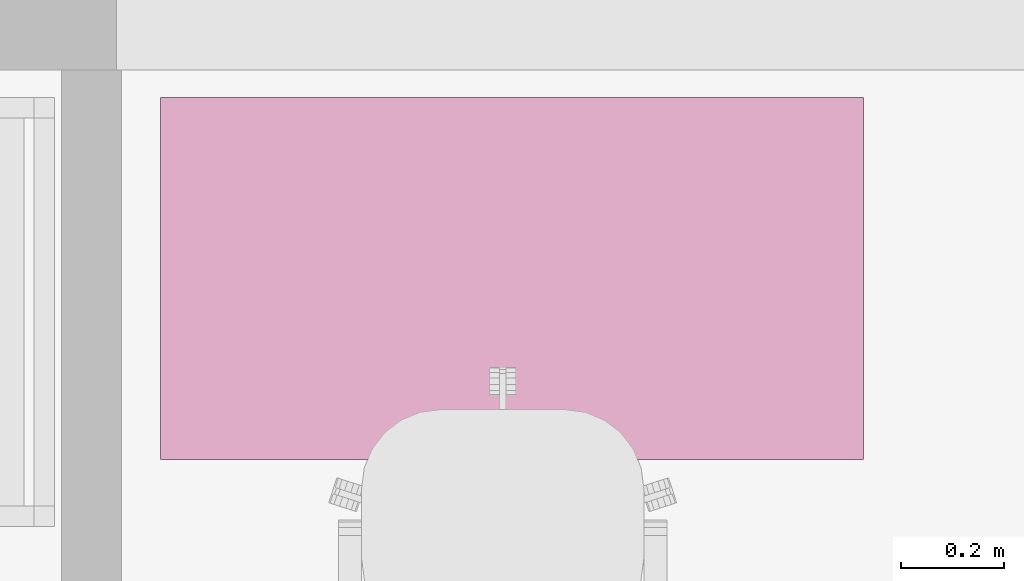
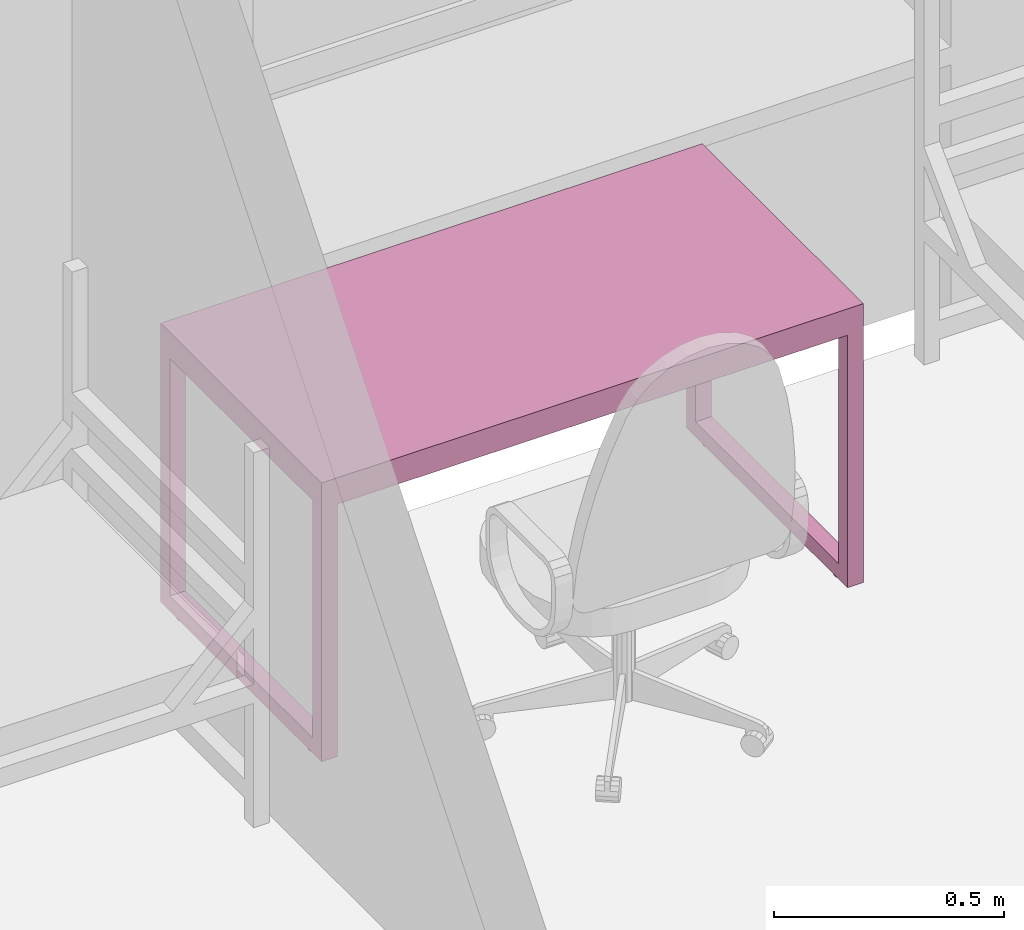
# One storey, part 47 of 48: 1 furnishing.
"""IFC2X3 building model written with IfcOpenShell, lengths in millimetres."""

from ifc_helpers import new_model, entity, si_unit, converted_unit, derived_unit, direction, frame, origin, place, context, subcontext, project, spatial, faceted_brep, source, transform, mapped, material, material_list, type_object, type_shapes, element, save


model = new_model("IFC2X3")

# Units and contexts
model_context = context("Model", 3, precision=0.01, world=origin(), true_north=direction((6.12303176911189e-17, 1.0)))
body_context = subcontext(model_context, "Body", "Model", "MODEL_VIEW")
ifc_project = project(units=[si_unit("LENGTHUNIT", "METRE", prefix="MILLI"), si_unit("AREAUNIT", "SQUARE_METRE"), si_unit("VOLUMEUNIT", "CUBIC_METRE"), converted_unit("PLANEANGLEUNIT", "DEGREE", entity("IfcRatioMeasure", 0.0174532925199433), si_unit("PLANEANGLEUNIT", "RADIAN"), dimensions=[0, 0, 0, 0, 0, 0, 0]), si_unit("MASSUNIT", "GRAM", prefix="KILO"), derived_unit("MASSDENSITYUNIT", [(si_unit("MASSUNIT", "GRAM", prefix="KILO"), 1), (si_unit("LENGTHUNIT", "METRE"), -3)]), si_unit("TIMEUNIT", "SECOND"), si_unit("FREQUENCYUNIT", "HERTZ"), si_unit("THERMODYNAMICTEMPERATUREUNIT", "DEGREE_CELSIUS"), derived_unit("THERMALTRANSMITTANCEUNIT", [(si_unit("MASSUNIT", "GRAM", prefix="KILO"), 1), (si_unit("THERMODYNAMICTEMPERATUREUNIT", "KELVIN"), -1), (si_unit("TIMEUNIT", "SECOND"), -3)]), derived_unit("VOLUMETRICFLOWRATEUNIT", [(si_unit("LENGTHUNIT", "METRE"), 3), (si_unit("TIMEUNIT", "SECOND"), -1)]), si_unit("ELECTRICCURRENTUNIT", "AMPERE"), si_unit("ELECTRICVOLTAGEUNIT", "VOLT"), si_unit("POWERUNIT", "WATT"), si_unit("FORCEUNIT", "NEWTON", prefix="KILO"), si_unit("ILLUMINANCEUNIT", "LUX"), si_unit("LUMINOUSFLUXUNIT", "LUMEN"), si_unit("LUMINOUSINTENSITYUNIT", "CANDELA"), derived_unit("USERDEFINED", [(si_unit("MASSUNIT", "GRAM", prefix="KILO"), -1), (si_unit("LENGTHUNIT", "METRE"), -2), (si_unit("TIMEUNIT", "SECOND"), 3), (si_unit("LUMINOUSFLUXUNIT", "LUMEN"), 1)]), derived_unit("LINEARVELOCITYUNIT", [(si_unit("LENGTHUNIT", "METRE"), 1), (si_unit("TIMEUNIT", "SECOND"), -1)]), si_unit("PRESSUREUNIT", "PASCAL"), derived_unit("USERDEFINED", [(si_unit("LENGTHUNIT", "METRE"), -2), (si_unit("MASSUNIT", "GRAM", prefix="KILO"), 1), (si_unit("TIMEUNIT", "SECOND"), -2)]), derived_unit("LINEARFORCEUNIT", [(si_unit("MASSUNIT", "GRAM", prefix="KILO"), 1), (si_unit("LENGTHUNIT", "METRE"), 1), (si_unit("TIMEUNIT", "SECOND"), -2), (si_unit("LENGTHUNIT", "METRE"), -1)]), derived_unit("PLANARFORCEUNIT", [(si_unit("MASSUNIT", "GRAM", prefix="KILO"), 1), (si_unit("LENGTHUNIT", "METRE"), 1), (si_unit("TIMEUNIT", "SECOND"), -2), (si_unit("LENGTHUNIT", "METRE"), -2)])], contexts=[model_context])

# Site, building, storey, space
site_placement = place(None, origin())
site = spatial("IfcSite", under=ifc_project, at=site_placement, Name="Default", CompositionType="ELEMENT")
building_placement = place(site_placement, origin())
building = spatial("IfcBuilding", under=site, at=building_placement, Name="SMA ARH", CompositionType="ELEMENT")
storey_placement = place(building_placement, frame((0.0, 0.0, 3300.0)))
storey = spatial("IfcBuildingStorey", under=building, at=storey_placement, Name="2 Korrus", CompositionType="ELEMENT", Elevation=3299.99999999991)
space_placement = place(storey_placement, origin())
space = spatial("IfcSpace", under=storey, at=space_placement, Name="2-31", CompositionType="ELEMENT", InteriorOrExteriorSpace="INTERNAL")

# Furnishing
ifc_material = material(Name="<Unnamed>")
ifc_material_list = material_list([ifc_material, ifc_material])
furniture_type = type_object("IfcFurnitureType", Name="kirjutuslaud 1360x700mm:kirjutuslaud 1360x700mm", material=ifc_material_list)
shared_shape = source(origin(), body_context, "Body", "Brep", [
    faceted_brep([(680.0, 350.0, 720.0), (680.0, 350.0, 750.0), (680.0, -350.0, 750.0), (680.0, -350.0, 720.0), (-680.0, 350.0, 720.0), (-680.0, -350.0, 720.0), (-680.0, -350.0, 750.0), (-680.0, 350.0, 750.0)], [[[0, 1, 2, 3]], [[4, 5, 6, 7]], [[3, 5, 4, 0]], [[2, 6, 5, 3]], [[1, 7, 6, 2]], [[0, 4, 7, 1]]]),
    faceted_brep([(-640.0, 310.0, 680.0), (-640.0, 310.0, 720.0), (-640.0, -310.0, 720.0), (-640.0, -310.0, 680.0), (-680.0, 350.0, 720.0), (-680.0, 350.0, 10.0), (-680.0, -350.0, 10.0), (-680.0, -350.0, 720.0), (-680.0, -310.0, 680.0), (-680.0, -310.0, 50.0), (-680.0, 310.0, 50.0), (-680.0, 310.0, 680.0), (680.0, 350.0, 720.0), (680.0, 350.0, 10.0), (640.0, 350.0, 10.0), (640.0, 350.0, 680.0), (-640.0, 350.0, 680.0), (-640.0, 350.0, 10.0), (-640.0, -350.0, 10.0), (-640.0, -350.0, 680.0), (640.0, -350.0, 680.0), (640.0, -350.0, 10.0), (680.0, -350.0, 10.0), (680.0, -350.0, 720.0), (640.0, 310.0, 720.0), (640.0, -310.0, 720.0), (-640.0, -310.0, 50.0), (-640.0, 310.0, 50.0), (640.0, -310.0, 680.0), (640.0, 310.0, 680.0), (680.0, -310.0, 680.0), (680.0, 310.0, 680.0), (680.0, 310.0, 50.0), (680.0, -310.0, 50.0), (640.0, -310.0, 50.0), (640.0, 310.0, 50.0)], [[[0, 1, 2, 3]], [[4, 5, 6, 7], [8, 9, 10, 11]], [[4, 12, 13, 14, 15, 16, 17, 5]], [[18, 6, 5, 17]], [[6, 18, 19, 20, 21, 22, 23, 7]], [[2, 1, 24, 25], [23, 12, 4, 7]], [[26, 9, 8, 3]], [[27, 10, 9, 26]], [[0, 11, 10, 27]], [[3, 8, 11, 0]], [[28, 20, 19, 3]], [[25, 28, 3, 2]], [[1, 0, 29, 24]], [[12, 23, 22, 13], [30, 31, 32, 33]], [[21, 20, 28, 34, 35, 29, 15, 14]], [[22, 21, 14, 13]], [[33, 34, 28, 30]], [[32, 35, 34, 33]], [[31, 29, 35, 32]], [[30, 28, 29, 31]], [[28, 25, 24, 29]], [[15, 29, 0, 16]], [[17, 16, 0, 27, 26, 3, 19, 18]]], outer=[[True], [True, False], [True], [True], [True], [False, True], [True], [True], [True], [True], [True], [True], [True], [True, False], [True], [True], [True], [True], [True], [True], [True], [True], [True]]),
    faceted_brep([(-655.964885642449, 270.466136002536, 0.0), (-659.847171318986, 269.955023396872, 0.0), (-663.729456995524, 270.466136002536, 0.0), (-667.347171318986, 271.964642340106, 0.0), (-670.453773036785, 274.348421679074, 0.0), (-672.837552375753, 277.455023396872, 0.0), (-674.336058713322, 281.072737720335, 0.0), (-674.847171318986, 284.955023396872, 0.0), (-674.336058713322, 288.83730907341, 0.0), (-672.837552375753, 292.455023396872, 0.0), (-670.453773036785, 295.561625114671, 0.0), (-667.347171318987, 297.945404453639, 0.0), (-663.729456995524, 299.443910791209, 0.0), (-659.847171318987, 299.955023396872, 0.0), (-655.964885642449, 299.443910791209, 0.0), (-652.347171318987, 297.945404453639, 0.0), (-649.240569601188, 295.561625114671, 0.0), (-646.85679026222, 292.455023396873, 0.0), (-645.35828392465, 288.83730907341, 0.0), (-644.847171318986, 284.955023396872, 0.0), (-645.35828392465, 281.072737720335, 0.0), (-646.85679026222, 277.455023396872, 0.0), (-649.240569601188, 274.348421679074, 0.0), (-652.347171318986, 271.964642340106, 0.0), (-649.240569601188, 295.561625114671, 10.0), (-652.347171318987, 297.945404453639, 10.0), (-655.964885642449, 299.443910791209, 10.0), (-659.847171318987, 299.955023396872, 10.0), (-663.729456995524, 299.443910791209, 10.0), (-667.347171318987, 297.945404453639, 10.0), (-670.453773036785, 295.561625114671, 10.0), (-672.837552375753, 292.455023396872, 10.0), (-674.336058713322, 288.83730907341, 10.0), (-674.847171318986, 284.955023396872, 10.0), (-674.336058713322, 281.072737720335, 10.0), (-672.837552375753, 277.455023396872, 10.0), (-670.453773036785, 274.348421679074, 10.0), (-667.347171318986, 271.964642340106, 10.0), (-663.729456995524, 270.466136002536, 10.0), (-659.847171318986, 269.955023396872, 10.0), (-655.964885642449, 270.466136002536, 10.0), (-652.347171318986, 271.964642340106, 10.0), (-649.240569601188, 274.348421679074, 10.0), (-646.85679026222, 277.455023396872, 10.0), (-645.35828392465, 281.072737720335, 10.0), (-644.847171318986, 284.955023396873, 10.0), (-645.35828392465, 288.83730907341, 10.0), (-646.85679026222, 292.455023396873, 10.0)], [[[0, 1, 2, 3, 4, 5, 6, 7, 8, 9, 10, 11, 12, 13, 14, 15, 16, 17, 18, 19, 20, 21, 22, 23]], [[24, 25, 26, 27, 28, 29, 30, 31, 32, 33, 34, 35, 36, 37, 38, 39, 40, 41, 42, 43, 44, 45, 46, 47]], [[7, 33, 32, 8]], [[8, 32, 31, 9]], [[11, 10, 30, 29]], [[30, 10, 9, 31]], [[12, 11, 29, 28]], [[12, 28, 27, 13]], [[13, 27, 26, 14]], [[14, 26, 25, 15]], [[17, 16, 24, 47]], [[24, 16, 15, 25]], [[18, 17, 47, 46]], [[18, 46, 45, 19]], [[19, 45, 44, 20]], [[20, 44, 43, 21]], [[23, 22, 42, 41]], [[42, 22, 21, 43]], [[0, 23, 41, 40]], [[0, 40, 39, 1]], [[1, 39, 38, 2]], [[2, 38, 37, 3]], [[5, 4, 36, 35]], [[36, 4, 3, 37]], [[6, 5, 35, 34]], [[6, 34, 33, 7]]]),
    faceted_brep([(-649.240569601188, -274.348421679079, 10.0), (-652.347171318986, -271.964642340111, 10.0), (-655.964885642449, -270.466136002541, 10.0), (-659.847171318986, -269.955023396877, 10.0), (-663.729456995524, -270.466136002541, 10.0), (-667.347171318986, -271.964642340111, 10.0), (-670.453773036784, -274.348421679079, 10.0), (-672.837552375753, -277.455023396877, 10.0), (-674.336058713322, -281.07273772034, 10.0), (-674.847171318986, -284.955023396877, 10.0), (-674.336058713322, -288.837309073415, 10.0), (-672.837552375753, -292.455023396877, 10.0), (-670.453773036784, -295.561625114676, 10.0), (-667.347171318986, -297.945404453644, 10.0), (-663.729456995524, -299.443910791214, 10.0), (-659.847171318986, -299.955023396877, 10.0), (-655.964885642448, -299.443910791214, 10.0), (-652.347171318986, -297.945404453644, 10.0), (-649.240569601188, -295.561625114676, 10.0), (-646.85679026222, -292.455023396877, 10.0), (-645.35828392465, -288.837309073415, 10.0), (-644.847171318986, -284.955023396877, 10.0), (-645.35828392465, -281.07273772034, 10.0), (-646.85679026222, -277.455023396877, 10.0), (-659.847171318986, -299.955023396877, 0.0), (-663.729456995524, -299.443910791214, 0.0), (-667.347171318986, -297.945404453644, 0.0), (-670.453773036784, -295.561625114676, 0.0), (-672.837552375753, -292.455023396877, 0.0), (-674.336058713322, -288.837309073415, 0.0), (-674.847171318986, -284.955023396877, 0.0), (-674.336058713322, -281.07273772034, 0.0), (-672.837552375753, -277.455023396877, 0.0), (-670.453773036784, -274.348421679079, 0.0), (-667.347171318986, -271.964642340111, 0.0), (-663.729456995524, -270.466136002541, 0.0), (-659.847171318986, -269.955023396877, 0.0), (-655.964885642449, -270.466136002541, 0.0), (-652.347171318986, -271.964642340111, 0.0), (-649.240569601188, -274.348421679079, 0.0), (-646.85679026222, -277.455023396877, 0.0), (-645.35828392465, -281.07273772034, 0.0), (-644.847171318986, -284.955023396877, 0.0), (-645.35828392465, -288.837309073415, 0.0), (-646.85679026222, -292.455023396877, 0.0), (-649.240569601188, -295.561625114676, 0.0), (-652.347171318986, -297.945404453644, 0.0), (-655.964885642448, -299.443910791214, 0.0)], [[[0, 1, 2, 3, 4, 5, 6, 7, 8, 9, 10, 11, 12, 13, 14, 15, 16, 17, 18, 19, 20, 21, 22, 23]], [[24, 25, 26, 27, 28, 29, 30, 31, 32, 33, 34, 35, 36, 37, 38, 39, 40, 41, 42, 43, 44, 45, 46, 47]], [[30, 9, 8, 31]], [[31, 8, 7, 32]], [[34, 33, 6, 5]], [[6, 33, 32, 7]], [[35, 34, 5, 4]], [[35, 4, 3, 36]], [[36, 3, 2, 37]], [[37, 2, 1, 38]], [[40, 39, 0, 23]], [[0, 39, 38, 1]], [[41, 40, 23, 22]], [[41, 22, 21, 42]], [[42, 21, 20, 43]], [[43, 20, 19, 44]], [[46, 45, 18, 17]], [[18, 45, 44, 19]], [[47, 46, 17, 16]], [[47, 16, 15, 24]], [[24, 15, 14, 25]], [[25, 14, 13, 26]], [[28, 27, 12, 11]], [[12, 27, 26, 13]], [[29, 28, 11, 10]], [[29, 10, 9, 30]]]),
    faceted_brep([(664.035114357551, 270.466136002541, 0.0), (660.152828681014, 269.955023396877, 0.0), (656.270543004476, 270.466136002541, 0.0), (652.652828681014, 271.96464234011, 0.0), (649.546226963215, 274.348421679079, 0.0), (647.162447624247, 277.455023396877, 0.0), (645.663941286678, 281.072737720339, 0.0), (645.152828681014, 284.955023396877, 0.0), (645.663941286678, 288.837309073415, 0.0), (647.162447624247, 292.455023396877, 0.0), (649.546226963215, 295.561625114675, 0.0), (652.652828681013, 297.945404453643, 0.0), (656.270543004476, 299.443910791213, 0.0), (660.152828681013, 299.955023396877, 0.0), (664.035114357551, 299.443910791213, 0.0), (667.652828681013, 297.945404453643, 0.0), (670.759430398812, 295.561625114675, 0.0), (673.14320973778, 292.455023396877, 0.0), (674.64171607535, 288.837309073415, 0.0), (675.152828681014, 284.955023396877, 0.0), (674.64171607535, 281.072737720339, 0.0), (673.14320973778, 277.455023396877, 0.0), (670.759430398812, 274.348421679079, 0.0), (667.652828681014, 271.96464234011, 0.0), (670.759430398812, 295.561625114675, 10.0), (667.652828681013, 297.945404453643, 10.0), (664.035114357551, 299.443910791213, 10.0), (660.152828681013, 299.955023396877, 10.0), (656.270543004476, 299.443910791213, 10.0), (652.652828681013, 297.945404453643, 10.0), (649.546226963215, 295.561625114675, 10.0), (647.162447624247, 292.455023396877, 10.0), (645.663941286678, 288.837309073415, 10.0), (645.152828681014, 284.955023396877, 10.0), (645.663941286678, 281.072737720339, 10.0), (647.162447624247, 277.455023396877, 10.0), (649.546226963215, 274.348421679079, 10.0), (652.652828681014, 271.96464234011, 10.0), (656.270543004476, 270.466136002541, 10.0), (660.152828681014, 269.955023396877, 10.0), (664.035114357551, 270.466136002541, 10.0), (667.652828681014, 271.96464234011, 10.0), (670.759430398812, 274.348421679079, 10.0), (673.14320973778, 277.455023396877, 10.0), (674.64171607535, 281.072737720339, 10.0), (675.152828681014, 284.955023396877, 10.0), (674.64171607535, 288.837309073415, 10.0), (673.14320973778, 292.455023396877, 10.0)], [[[0, 1, 2, 3, 4, 5, 6, 7, 8, 9, 10, 11, 12, 13, 14, 15, 16, 17, 18, 19, 20, 21, 22, 23]], [[24, 25, 26, 27, 28, 29, 30, 31, 32, 33, 34, 35, 36, 37, 38, 39, 40, 41, 42, 43, 44, 45, 46, 47]], [[7, 33, 32, 8]], [[8, 32, 31, 9]], [[11, 10, 30, 29]], [[30, 10, 9, 31]], [[12, 11, 29, 28]], [[12, 28, 27, 13]], [[13, 27, 26, 14]], [[14, 26, 25, 15]], [[17, 16, 24, 47]], [[24, 16, 15, 25]], [[18, 17, 47, 46]], [[18, 46, 45, 19]], [[19, 45, 44, 20]], [[20, 44, 43, 21]], [[23, 22, 42, 41]], [[42, 22, 21, 43]], [[0, 23, 41, 40]], [[0, 40, 39, 1]], [[1, 39, 38, 2]], [[2, 38, 37, 3]], [[5, 4, 36, 35]], [[36, 4, 3, 37]], [[6, 5, 35, 34]], [[6, 34, 33, 7]]]),
    faceted_brep([(670.759430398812, -274.348421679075, 10.0), (667.652828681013, -271.964642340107, 10.0), (664.035114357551, -270.466136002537, 10.0), (660.152828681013, -269.955023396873, 10.0), (656.270543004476, -270.466136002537, 10.0), (652.652828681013, -271.964642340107, 10.0), (649.546226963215, -274.348421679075, 10.0), (647.162447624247, -277.455023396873, 10.0), (645.663941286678, -281.072737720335, 10.0), (645.152828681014, -284.955023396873, 10.0), (645.663941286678, -288.837309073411, 10.0), (647.162447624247, -292.455023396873, 10.0), (649.546226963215, -295.561625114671, 10.0), (652.652828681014, -297.94540445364, 10.0), (656.270543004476, -299.443910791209, 10.0), (660.152828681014, -299.955023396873, 10.0), (664.035114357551, -299.443910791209, 10.0), (667.652828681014, -297.94540445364, 10.0), (670.759430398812, -295.561625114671, 10.0), (673.14320973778, -292.455023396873, 10.0), (674.64171607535, -288.837309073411, 10.0), (675.152828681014, -284.955023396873, 10.0), (674.64171607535, -281.072737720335, 10.0), (673.14320973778, -277.455023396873, 10.0), (660.152828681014, -299.955023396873, 0.0), (656.270543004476, -299.443910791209, 0.0), (652.652828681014, -297.94540445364, 0.0), (649.546226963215, -295.561625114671, 0.0), (647.162447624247, -292.455023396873, 0.0), (645.663941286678, -288.837309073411, 0.0), (645.152828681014, -284.955023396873, 0.0), (645.663941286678, -281.072737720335, 0.0), (647.162447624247, -277.455023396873, 0.0), (649.546226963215, -274.348421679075, 0.0), (652.652828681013, -271.964642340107, 0.0), (656.270543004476, -270.466136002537, 0.0), (660.152828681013, -269.955023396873, 0.0), (664.035114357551, -270.466136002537, 0.0), (667.652828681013, -271.964642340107, 0.0), (670.759430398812, -274.348421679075, 0.0), (673.14320973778, -277.455023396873, 0.0), (674.64171607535, -281.072737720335, 0.0), (675.152828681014, -284.955023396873, 0.0), (674.64171607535, -288.837309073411, 0.0), (673.14320973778, -292.455023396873, 0.0), (670.759430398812, -295.561625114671, 0.0), (667.652828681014, -297.94540445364, 0.0), (664.035114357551, -299.443910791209, 0.0)], [[[0, 1, 2, 3, 4, 5, 6, 7, 8, 9, 10, 11, 12, 13, 14, 15, 16, 17, 18, 19, 20, 21, 22, 23]], [[24, 25, 26, 27, 28, 29, 30, 31, 32, 33, 34, 35, 36, 37, 38, 39, 40, 41, 42, 43, 44, 45, 46, 47]], [[30, 9, 8, 31]], [[31, 8, 7, 32]], [[34, 33, 6, 5]], [[6, 33, 32, 7]], [[35, 34, 5, 4]], [[35, 4, 3, 36]], [[36, 3, 2, 37]], [[37, 2, 1, 38]], [[40, 39, 0, 23]], [[0, 39, 38, 1]], [[41, 40, 23, 22]], [[41, 22, 21, 42]], [[42, 21, 20, 43]], [[43, 20, 19, 44]], [[46, 45, 18, 17]], [[18, 45, 44, 19]], [[47, 46, 17, 16]], [[47, 16, 15, 24]], [[24, 15, 14, 25]], [[25, 14, 13, 26]], [[28, 27, 12, 11]], [[12, 27, 26, 13]], [[29, 28, 11, 10]], [[29, 10, 9, 30]]]),
])
type_shapes(furniture_type, [shared_shape])
furnishing_placement = place(space_placement, frame((32480.3924632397, 12096.686384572, 0.0), z_axis=(0.0, 0.0, 1.0), x_axis=(-1.0, 0.0, 0.0)))
element("IfcFurnishingElement", 1, at=furnishing_placement, inside=space, type_object=furniture_type, Name="kirjutuslaud 1360x700mm:kirjutuslaud 1360x700mm", ObjectType="kirjutuslaud 1360x700mm:kirjutuslaud 1360x700mm", context=body_context, shape_type="MappedRepresentation", body=[
    mapped(shared_shape, transform((0.0, 0.0, 0.0), scale=1.0)),
])

save(model, "model.ifc")
